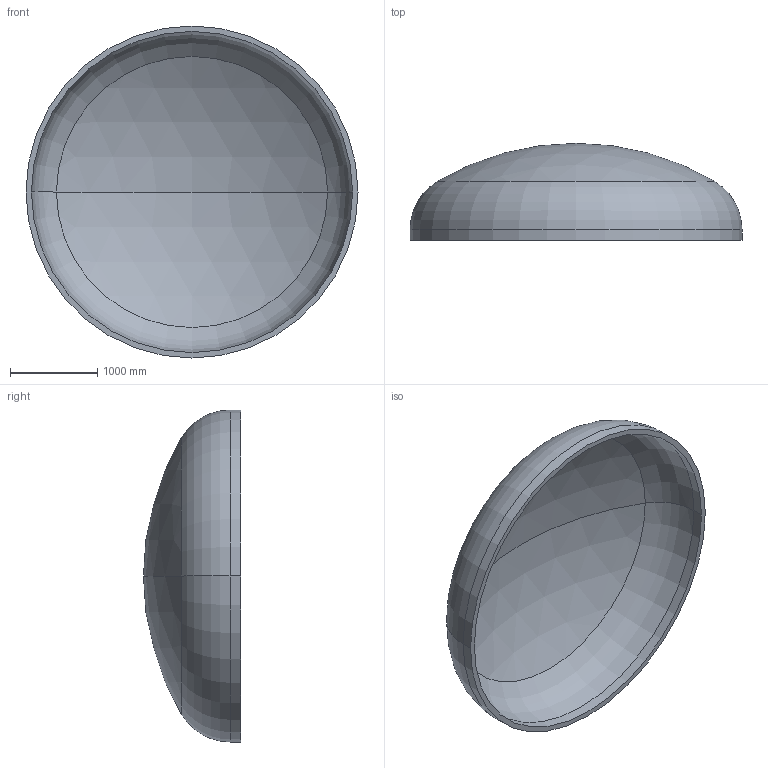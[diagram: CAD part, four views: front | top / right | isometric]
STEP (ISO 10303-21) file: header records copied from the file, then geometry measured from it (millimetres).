
FILE_DESCRIPTION (( 'STEP AP203' ), '1' );
FILE_NAME ('DIN 28013 Korbbogenform_-_Boden DIN 28013 - 3800 x 120 - I - s=62.step', '2016-07-01T21:34:02', ( '' ), ( '' ), 'SwSTEP 2.0', 'SolidWorks 2013', '' );
FILE_SCHEMA (( 'CONFIG_CONTROL_DESIGN' ));
Length unit declared in the file: millimetre
Products named in the file (1): DIN 28013 Korbbogenform_-_Boden DIN 28013 - 3800 x 120 - I - s=62
Bounding box: 3800 x 1110.84 x 3800 mm (x, y, z)
Volume: 1040415971.1 mm3; surface area: 34297927.4 mm2
Topology: 1 solids, 1 shells, 13 faces, 24 edges, 14 vertices
Faces by surface type: torus 4, cylinder 4, sphere 4, plane 1
Entity records: 407 total; most frequent: DIRECTION 72, CARTESIAN_POINT 52, ORIENTED_EDGE 48, AXIS2_PLACEMENT_3D 34, EDGE_CURVE 24, CIRCLE 20, EDGE_LOOP 14, VERTEX_POINT 14
